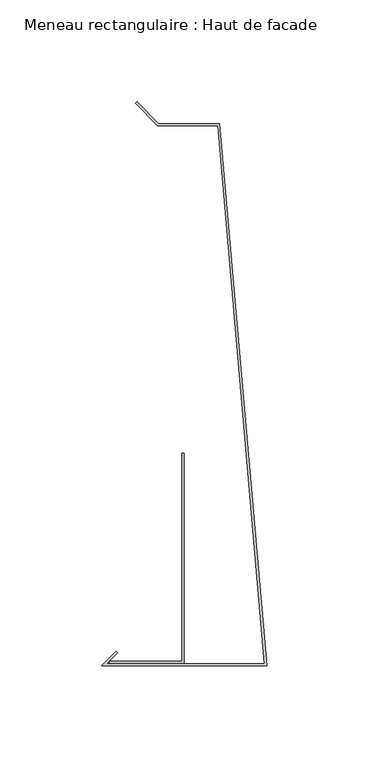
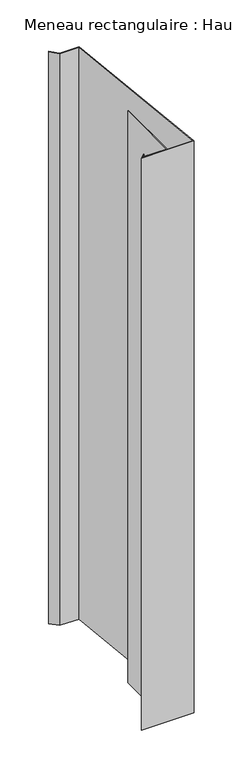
"""IFC4 building model written with IfcOpenShell, lengths in millimetres: member geometry, Meneau rectangulaire : Haut de facade."""

from ifc_helpers import new_model, si_unit, frame, origin, place, context, project, spatial, polyline, outline, extrude, source, transform, mapped, element, save


def meneau_rectangulaire_haut_de_facade_54da1b67(model_context):
    return source(origin(), model_context, "Body", "SweptSolid", [
        extrude(outline(polyline([(-24.0647895, 160.703755), (-53.5626719, 160.703755), (-64.4621669, 171.6032499), (-63.7550601, 172.3103567), (-53.1484584, 161.703755), (-23.1484584, 161.703755), (0.0, -104.2), (-81.0, -104.2), (-73.9289322, -97.1289322), (-73.2218254, -97.836039), (-78.5857864, -103.2), (-1.0913085, -103.2), (-24.0647895, 160.703755)])), frame((0.0, 0.0, -928.0), z_axis=(0.0, 0.0, 1.0), x_axis=(1.0, 0.0, 0.0)), (0.0, 0.0, 1.0), 928.0),
        extrude(outline(polyline([(-40.5477541, -102.9846816), (-77.0752814, -102.9846816), (-77.0752814, -101.9846816), (-41.5477541, -101.9846816), (-41.5477541, -0.0384227), (-40.5477541, -0.0384227), (-40.5477541, -102.9846816)])), frame((0.0, 0.0, -928.0), z_axis=(0.0, 0.0, 1.0), x_axis=(1.0, 0.0, 0.0)), (0.0, 0.0, 1.0), 928.0),
    ])


if __name__ == "__main__":
    model = new_model("IFC4")
    model_context = context("Model", 3, world=origin())
    ifc_project = project(units=[si_unit("LENGTHUNIT", "METRE", prefix="MILLI")], contexts=[model_context])
    site = spatial("IfcSite", under=ifc_project)
    building = spatial("IfcBuilding", under=site)
    placement = place(None, origin())
    meneau_rectangulaire_haut_de_facade_shape = meneau_rectangulaire_haut_de_facade_54da1b67(model_context)
    element("IfcMember", 1, ObjectType="Meneau rectangulaire : Haut de facade", at=placement, inside=building, context=model_context, shape_type="MappedRepresentation", body=[
        mapped(meneau_rectangulaire_haut_de_facade_shape, transform((0.0, 0.0, 0.0), x_axis=(1.0, 0.0, 0.0), y_axis=(0.0, 1.0, 0.0), z_axis=(0.0, 0.0, 1.0))),
    ])
    save(model, "model.ifc")
